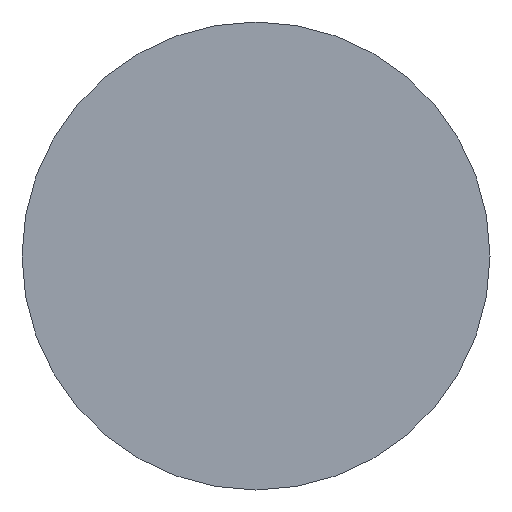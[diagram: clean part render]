
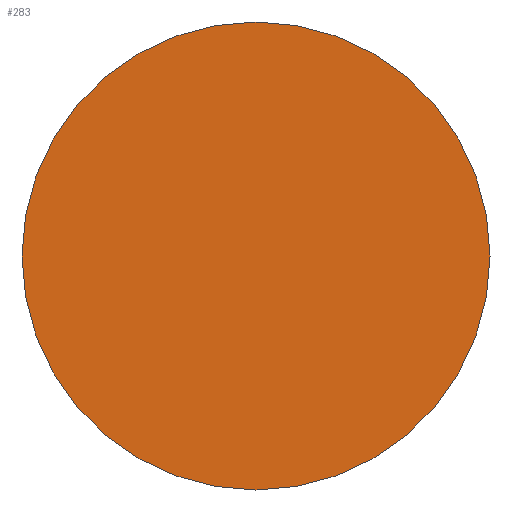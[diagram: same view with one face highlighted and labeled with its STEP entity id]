
A CAD part, left-side view. The second image highlights one B-rep face of the part: STEP entity #283.
In plain terms, the highlighted planar face has unit normal (-1, 0, 0).
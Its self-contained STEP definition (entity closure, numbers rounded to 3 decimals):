
#5 = PLANE ( 'NONE',  #39 ) ;
#6 = CARTESIAN_POINT ( 'NONE',  ( 0., 0., 0. ) ) ;
#9 = EDGE_CURVE ( 'NONE', #37, #264, #239, .T. ) ;
#11 = EDGE_CURVE ( 'NONE', #264, #37, #127, .T. ) ;
#26 = DIRECTION ( 'NONE',  ( -1., 0., 0. ) ) ;
#33 = AXIS2_PLACEMENT_3D ( 'NONE', #173, #26, #292 ) ;
#37 = VERTEX_POINT ( 'NONE', #50 ) ;
#39 = AXIS2_PLACEMENT_3D ( 'NONE', #128, #95, #227 ) ;
#49 = ORIENTED_EDGE ( 'NONE', *, *, #11, .T. ) ;
#50 = CARTESIAN_POINT ( 'NONE',  ( 0., 0., -1.4 ) ) ;
#57 = AXIS2_PLACEMENT_3D ( 'NONE', #6, #67, #259 ) ;
#67 = DIRECTION ( 'NONE',  ( -1., 0., 0. ) ) ;
#95 = DIRECTION ( 'NONE',  ( 1., 0., 0. ) ) ;
#102 = CARTESIAN_POINT ( 'NONE',  ( 0., 0., 1.4 ) ) ;
#120 = FACE_OUTER_BOUND ( 'NONE', #224, .T. ) ;
#127 = CIRCLE ( 'NONE', #57, 1.4 ) ;
#128 = CARTESIAN_POINT ( 'NONE',  ( 0., 0., 0. ) ) ;
#173 = CARTESIAN_POINT ( 'NONE',  ( 0., 0., 0. ) ) ;
#224 = EDGE_LOOP ( 'NONE', ( #49, #258 ) ) ;
#227 = DIRECTION ( 'NONE',  ( 0., 0., -1. ) ) ;
#239 = CIRCLE ( 'NONE', #33, 1.4 ) ;
#258 = ORIENTED_EDGE ( 'NONE', *, *, #9, .T. ) ;
#259 = DIRECTION ( 'NONE',  ( 0., 0., 1. ) ) ;
#264 = VERTEX_POINT ( 'NONE', #102 ) ;
#283 = ADVANCED_FACE ( 'NONE', ( #120 ), #5, .F. ) ;
#292 = DIRECTION ( 'NONE',  ( 0., 0., 1. ) ) ;
